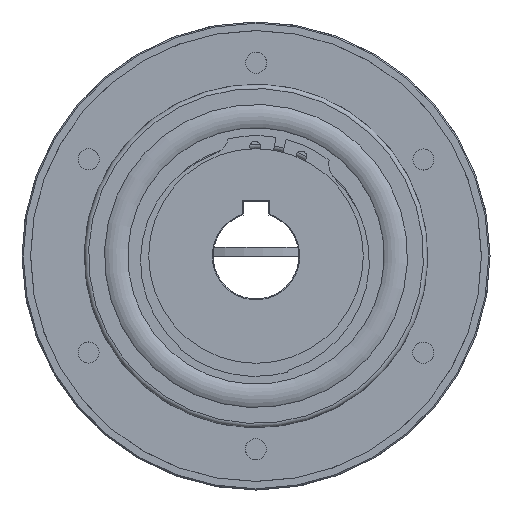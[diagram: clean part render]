
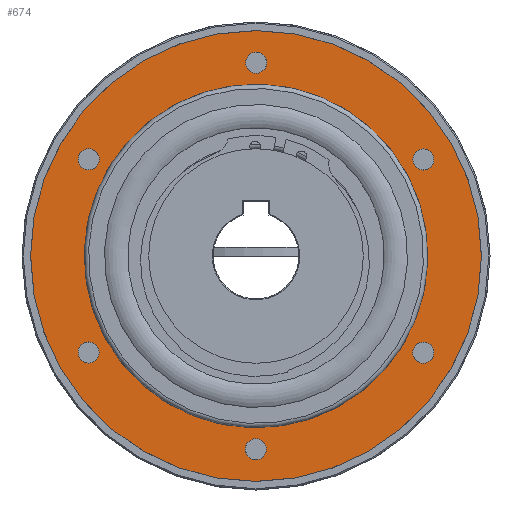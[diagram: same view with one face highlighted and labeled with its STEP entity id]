
A CAD part, left-side view. The second image highlights one B-rep face of the part: STEP entity #674.
In plain terms, the highlighted planar face has unit normal (-1, 0, 0).
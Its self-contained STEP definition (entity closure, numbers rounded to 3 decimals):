
#674 = ADVANCED_FACE( '', ( #1131, #1132, #1133, #1134, #1135, #1136, #1137, #1138 ), #1139, .F. );
#1131 = FACE_OUTER_BOUND( '', #1465, .T. );
#1132 = FACE_BOUND( '', #1466, .T. );
#1133 = FACE_BOUND( '', #1467, .T. );
#1134 = FACE_BOUND( '', #1468, .T. );
#1135 = FACE_BOUND( '', #1469, .T. );
#1136 = FACE_BOUND( '', #1470, .T. );
#1137 = FACE_BOUND( '', #1471, .T. );
#1138 = FACE_BOUND( '', #1472, .T. );
#1139 = PLANE( '', #1473 );
#1465 = EDGE_LOOP( '', ( #2033 ) );
#1466 = EDGE_LOOP( '', ( #2034 ) );
#1467 = EDGE_LOOP( '', ( #2035 ) );
#1468 = EDGE_LOOP( '', ( #2036 ) );
#1469 = EDGE_LOOP( '', ( #2037 ) );
#1470 = EDGE_LOOP( '', ( #2038 ) );
#1471 = EDGE_LOOP( '', ( #2039 ) );
#1472 = EDGE_LOOP( '', ( #2040 ) );
#1473 = AXIS2_PLACEMENT_3D( '', #2041, #2042, #2043 );
#2033 = ORIENTED_EDGE( '', *, *, #2353, .T. );
#2034 = ORIENTED_EDGE( '', *, *, #2354, .T. );
#2035 = ORIENTED_EDGE( '', *, *, #2355, .T. );
#2036 = ORIENTED_EDGE( '', *, *, #2356, .T. );
#2037 = ORIENTED_EDGE( '', *, *, #2357, .T. );
#2038 = ORIENTED_EDGE( '', *, *, #2358, .T. );
#2039 = ORIENTED_EDGE( '', *, *, #2359, .T. );
#2040 = ORIENTED_EDGE( '', *, *, #2360, .F. );
#2041 = CARTESIAN_POINT( '', ( -17.95, 52.5, 0. ) );
#2042 = DIRECTION( '', ( 1., 0., 0. ) );
#2043 = DIRECTION( '', ( 0., 1., 0. ) );
#2353 = EDGE_CURVE( '', #2658, #2658, #2659, .T. );
#2354 = EDGE_CURVE( '', #2660, #2660, #2661, .T. );
#2355 = EDGE_CURVE( '', #2662, #2662, #2663, .T. );
#2356 = EDGE_CURVE( '', #2664, #2664, #2665, .T. );
#2357 = EDGE_CURVE( '', #2666, #2666, #2667, .T. );
#2358 = EDGE_CURVE( '', #2668, #2668, #2669, .T. );
#2359 = EDGE_CURVE( '', #2670, #2670, #2671, .T. );
#2360 = EDGE_CURVE( '', #2672, #2672, #2673, .T. );
#2658 = VERTEX_POINT( '', #3220 );
#2659 = CIRCLE( '', #3221, 52.5 );
#2660 = VERTEX_POINT( '', #3222 );
#2661 = CIRCLE( '', #3223, 2.459 );
#2662 = VERTEX_POINT( '', #3224 );
#2663 = CIRCLE( '', #3225, 2.459 );
#2664 = VERTEX_POINT( '', #3226 );
#2665 = CIRCLE( '', #3227, 2.459 );
#2666 = VERTEX_POINT( '', #3228 );
#2667 = CIRCLE( '', #3229, 2.459 );
#2668 = VERTEX_POINT( '', #3230 );
#2669 = CIRCLE( '', #3231, 2.459 );
#2670 = VERTEX_POINT( '', #3232 );
#2671 = CIRCLE( '', #3233, 2.459 );
#2672 = VERTEX_POINT( '', #3234 );
#2673 = CIRCLE( '', #3235, 40. );
#3220 = CARTESIAN_POINT( '', ( -17.95, 0., 52.5 ) );
#3221 = AXIS2_PLACEMENT_3D( '', #3488, #3489, #3490 );
#3222 = CARTESIAN_POINT( '', ( -17.95, 41.1, 23.729 ) );
#3223 = AXIS2_PLACEMENT_3D( '', #3491, #3492, #3493 );
#3224 = CARTESIAN_POINT( '', ( -17.95, 41.1, -23.729 ) );
#3225 = AXIS2_PLACEMENT_3D( '', #3494, #3495, #3496 );
#3226 = CARTESIAN_POINT( '', ( -17.95, 0., -47.459 ) );
#3227 = AXIS2_PLACEMENT_3D( '', #3497, #3498, #3499 );
#3228 = CARTESIAN_POINT( '', ( -17.95, -41.1, -23.729 ) );
#3229 = AXIS2_PLACEMENT_3D( '', #3500, #3501, #3502 );
#3230 = CARTESIAN_POINT( '', ( -17.95, -41.1, 23.729 ) );
#3231 = AXIS2_PLACEMENT_3D( '', #3503, #3504, #3505 );
#3232 = CARTESIAN_POINT( '', ( -17.95, 0., 47.459 ) );
#3233 = AXIS2_PLACEMENT_3D( '', #3506, #3507, #3508 );
#3234 = CARTESIAN_POINT( '', ( -17.95, 0., 40. ) );
#3235 = AXIS2_PLACEMENT_3D( '', #3509, #3510, #3511 );
#3488 = CARTESIAN_POINT( '', ( -17.95, 0., 0. ) );
#3489 = DIRECTION( '', ( -1., 0., 0. ) );
#3490 = DIRECTION( '', ( 0., 0., 1. ) );
#3491 = CARTESIAN_POINT( '', ( -17.95, 38.971, 22.5 ) );
#3492 = DIRECTION( '', ( 1., 0., 0. ) );
#3493 = DIRECTION( '', ( 0., 0.866, 0.5 ) );
#3494 = CARTESIAN_POINT( '', ( -17.95, 38.971, -22.5 ) );
#3495 = DIRECTION( '', ( 1., 0., 0. ) );
#3496 = DIRECTION( '', ( 0., 0.866, -0.5 ) );
#3497 = CARTESIAN_POINT( '', ( -17.95, 0., -45. ) );
#3498 = DIRECTION( '', ( 1., 0., 0. ) );
#3499 = DIRECTION( '', ( 0., 0., -1. ) );
#3500 = CARTESIAN_POINT( '', ( -17.95, -38.971, -22.5 ) );
#3501 = DIRECTION( '', ( 1., 0., 0. ) );
#3502 = DIRECTION( '', ( 0., -0.866, -0.5 ) );
#3503 = CARTESIAN_POINT( '', ( -17.95, -38.971, 22.5 ) );
#3504 = DIRECTION( '', ( 1., 0., 0. ) );
#3505 = DIRECTION( '', ( 0., -0.866, 0.5 ) );
#3506 = CARTESIAN_POINT( '', ( -17.95, 0., 45. ) );
#3507 = DIRECTION( '', ( 1., 0., 0. ) );
#3508 = DIRECTION( '', ( 0., 0., 1. ) );
#3509 = CARTESIAN_POINT( '', ( -17.95, 0., 0. ) );
#3510 = DIRECTION( '', ( -1., 0., 0. ) );
#3511 = DIRECTION( '', ( 0., 0., 1. ) );
